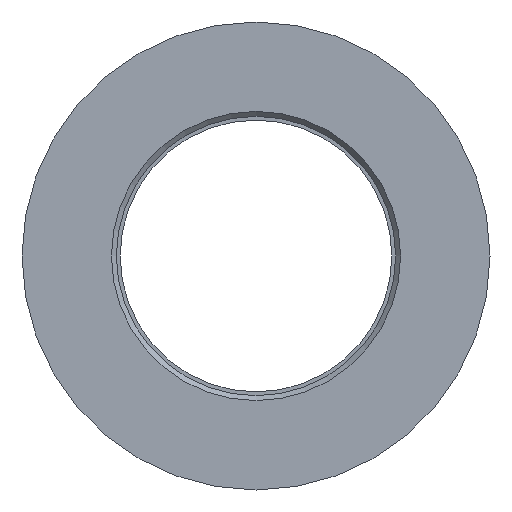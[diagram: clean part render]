
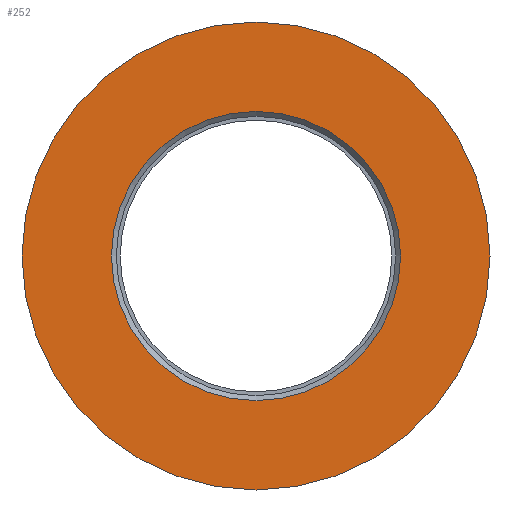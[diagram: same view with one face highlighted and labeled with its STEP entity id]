
A CAD part, left-side view. The second image highlights one B-rep face of the part: STEP entity #252.
In plain terms, the highlighted planar face has unit normal (-1, 0, 0).
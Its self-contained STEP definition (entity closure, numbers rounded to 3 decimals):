
#22=FACE_BOUND('',#59,.T.);
#29=PLANE('',#298);
#40=FACE_OUTER_BOUND('',#58,.T.);
#58=EDGE_LOOP('',(#188));
#59=EDGE_LOOP('',(#189));
#101=CIRCLE('',#293,9.575);
#105=CIRCLE('',#299,15.5);
#121=VERTEX_POINT('',#424);
#125=VERTEX_POINT('',#436);
#143=EDGE_CURVE('',#121,#121,#101,.T.);
#149=EDGE_CURVE('',#125,#125,#105,.T.);
#188=ORIENTED_EDGE('',*,*,#149,.F.);
#189=ORIENTED_EDGE('',*,*,#143,.F.);
#252=ADVANCED_FACE('',(#40,#22),#29,.T.);
#293=AXIS2_PLACEMENT_3D('',#425,#343,#344);
#298=AXIS2_PLACEMENT_3D('',#435,#355,#356);
#299=AXIS2_PLACEMENT_3D('',#437,#357,#358);
#343=DIRECTION('center_axis',(-1.,0.,0.));
#344=DIRECTION('ref_axis',(0.,-1.,0.));
#355=DIRECTION('center_axis',(-1.,0.,0.));
#356=DIRECTION('ref_axis',(0.,0.,1.));
#357=DIRECTION('center_axis',(1.,0.,0.));
#358=DIRECTION('ref_axis',(0.,0.,-1.));
#424=CARTESIAN_POINT('',(0.,9.575,0.));
#425=CARTESIAN_POINT('Origin',(0.,0.,0.));
#435=CARTESIAN_POINT('Origin',(0.,15.5,0.));
#436=CARTESIAN_POINT('',(0.,-15.5,0.));
#437=CARTESIAN_POINT('Origin',(0.,0.,0.));
